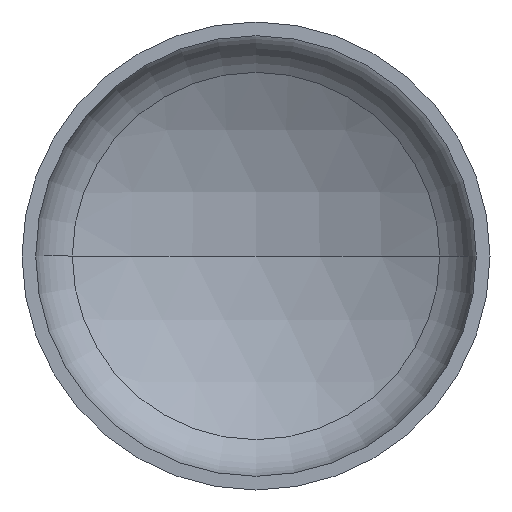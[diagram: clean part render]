
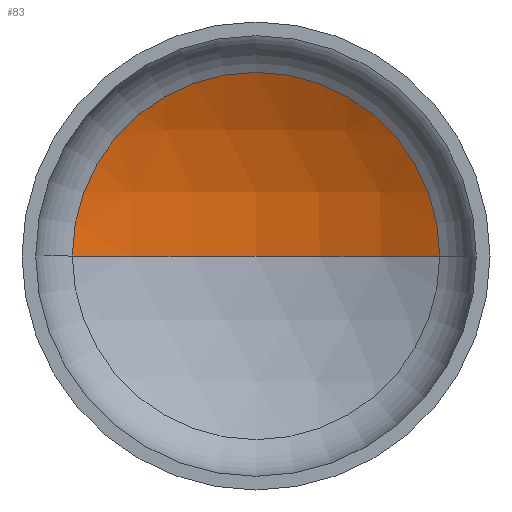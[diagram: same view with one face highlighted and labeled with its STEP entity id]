
A CAD part, front view. The second image highlights one B-rep face of the part: STEP entity #83.
In plain terms, the highlighted spherical face has radius 218 mm.
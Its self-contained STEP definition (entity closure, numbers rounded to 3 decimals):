
#7 = AXIS2_PLACEMENT_3D ( 'NONE', #108, #398, #269 ) ;
#13 = EDGE_LOOP ( 'NONE', ( #247, #35, #177 ) ) ;
#14 = CARTESIAN_POINT ( 'NONE',  ( 0., 61.577, 0. ) ) ;
#28 = AXIS2_PLACEMENT_3D ( 'NONE', #271, #44, #215 ) ;
#32 = VERTEX_POINT ( 'NONE', #265 ) ;
#35 = ORIENTED_EDGE ( 'NONE', *, *, #403, .T. ) ;
#37 = VERTEX_POINT ( 'NONE', #279 ) ;
#44 = DIRECTION ( 'NONE',  ( 0., 0., 1. ) ) ;
#66 = VERTEX_POINT ( 'NONE', #257 ) ;
#74 = AXIS2_PLACEMENT_3D ( 'NONE', #14, #189, #148 ) ;
#83 = ADVANCED_FACE ( 'NONE', ( #353 ), #235, .F. ) ;
#108 = CARTESIAN_POINT ( 'NONE',  ( 0., -128.277, 0. ) ) ;
#148 = DIRECTION ( 'NONE',  ( 1., 0., 0. ) ) ;
#153 = AXIS2_PLACEMENT_3D ( 'NONE', #252, #232, #243 ) ;
#177 = ORIENTED_EDGE ( 'NONE', *, *, #366, .T. ) ;
#189 = DIRECTION ( 'NONE',  ( 0., -1., 0. ) ) ;
#215 = DIRECTION ( 'NONE',  ( 1., 0., 0. ) ) ;
#223 = CIRCLE ( 'NONE', #28, 218. ) ;
#232 = DIRECTION ( 'NONE',  ( 0., 0., -1. ) ) ;
#235 = SPHERICAL_SURFACE ( 'NONE', #153, 218. ) ;
#243 = DIRECTION ( 'NONE',  ( -1., 0., 0. ) ) ;
#247 = ORIENTED_EDGE ( 'NONE', *, *, #399, .F. ) ;
#252 = CARTESIAN_POINT ( 'NONE',  ( 0., -128.277, 0. ) ) ;
#257 = CARTESIAN_POINT ( 'NONE',  ( 107.142, 61.577, 0. ) ) ;
#265 = CARTESIAN_POINT ( 'NONE',  ( -107.142, 61.577, 0. ) ) ;
#269 = DIRECTION ( 'NONE',  ( -1., 0., 0. ) ) ;
#271 = CARTESIAN_POINT ( 'NONE',  ( 0., -128.277, 0. ) ) ;
#279 = CARTESIAN_POINT ( 'NONE',  ( 0., 89.723, 0. ) ) ;
#307 = CIRCLE ( 'NONE', #74, 107.142 ) ;
#349 = CIRCLE ( 'NONE', #7, 218. ) ;
#353 = FACE_OUTER_BOUND ( 'NONE', #13, .T. ) ;
#366 = EDGE_CURVE ( 'NONE', #66, #32, #307, .T. ) ;
#398 = DIRECTION ( 'NONE',  ( 0., 0., -1. ) ) ;
#399 = EDGE_CURVE ( 'NONE', #37, #32, #223, .T. ) ;
#403 = EDGE_CURVE ( 'NONE', #37, #66, #349, .T. ) ;
